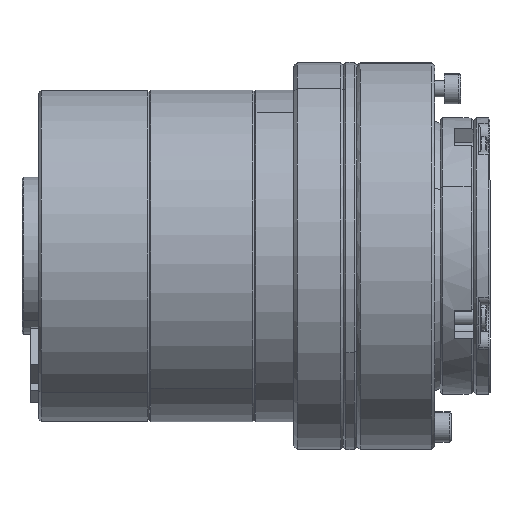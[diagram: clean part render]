
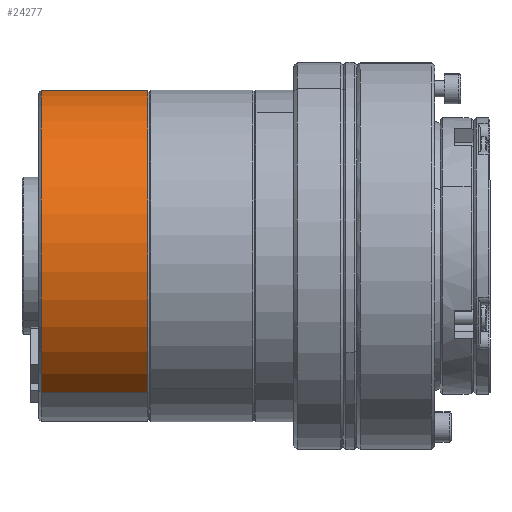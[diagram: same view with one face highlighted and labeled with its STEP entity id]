
A CAD part, top view. The second image highlights one B-rep face of the part: STEP entity #24277.
In plain terms, the highlighted cylindrical face has radius 30 mm (diameter 60 mm), a partial arc.
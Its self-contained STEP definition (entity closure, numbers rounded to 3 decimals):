
#950 = EDGE_CURVE ( 'NONE', #9895, #17690, #17431, .T. ) ;
#1883 = CARTESIAN_POINT ( 'NONE',  ( -70.1, 0., 0. ) ) ;
#2168 = CIRCLE ( 'NONE', #16726, 30. ) ;
#3927 = CARTESIAN_POINT ( 'NONE',  ( -71.1, 24.721, -16.997 ) ) ;
#5256 = EDGE_CURVE ( 'NONE', #24748, #25273, #2168, .T. ) ;
#6031 = DIRECTION ( 'NONE',  ( 1., 0., 0. ) ) ;
#6273 = EDGE_LOOP ( 'NONE', ( #20752, #24023, #8899, #15278 ) ) ;
#6636 = CARTESIAN_POINT ( 'NONE',  ( -70.1, 24.721, -16.997 ) ) ;
#7609 = DIRECTION ( 'NONE',  ( 0., -0.824, 0.567 ) ) ;
#8640 = EDGE_CURVE ( 'NONE', #17690, #24748, #14356, .T. ) ;
#8741 = AXIS2_PLACEMENT_3D ( 'NONE', #1883, #9819, #15827 ) ;
#8899 = ORIENTED_EDGE ( 'NONE', *, *, #8640, .T. ) ;
#9570 = CARTESIAN_POINT ( 'NONE',  ( -51.9, 0., 0. ) ) ;
#9819 = DIRECTION ( 'NONE',  ( -1., 0., 0. ) ) ;
#9895 = VERTEX_POINT ( 'NONE', #19655 ) ;
#9945 = FACE_OUTER_BOUND ( 'NONE', #6273, .T. ) ;
#10112 = CARTESIAN_POINT ( 'NONE',  ( -71.1, 0., 0. ) ) ;
#10407 = CARTESIAN_POINT ( 'NONE',  ( -71.1, -24.721, 16.997 ) ) ;
#11339 = CARTESIAN_POINT ( 'NONE',  ( -70.1, -24.721, 16.997 ) ) ;
#12684 = VECTOR ( 'NONE', #19050, 1000. ) ;
#12769 = EDGE_CURVE ( 'NONE', #9895, #25273, #13285, .T. ) ;
#13075 = DIRECTION ( 'NONE',  ( -1., 0., 0. ) ) ;
#13285 = LINE ( 'NONE', #11339, #12684 ) ;
#14356 = LINE ( 'NONE', #6636, #20107 ) ;
#14482 = DIRECTION ( 'NONE',  ( -1., 0., 0. ) ) ;
#15278 = ORIENTED_EDGE ( 'NONE', *, *, #5256, .T. ) ;
#15827 = DIRECTION ( 'NONE',  ( 0., 0.824, -0.567 ) ) ;
#16726 = AXIS2_PLACEMENT_3D ( 'NONE', #10112, #6031, #21861 ) ;
#17431 = CIRCLE ( 'NONE', #22386, 30. ) ;
#17690 = VERTEX_POINT ( 'NONE', #19522 ) ;
#19050 = DIRECTION ( 'NONE',  ( -1., 0., 0. ) ) ;
#19522 = CARTESIAN_POINT ( 'NONE',  ( -51.9, 24.721, -16.997 ) ) ;
#19655 = CARTESIAN_POINT ( 'NONE',  ( -51.9, -24.721, 16.997 ) ) ;
#20107 = VECTOR ( 'NONE', #14482, 1000. ) ;
#20752 = ORIENTED_EDGE ( 'NONE', *, *, #12769, .F. ) ;
#21822 = CYLINDRICAL_SURFACE ( 'NONE', #8741, 30. ) ;
#21861 = DIRECTION ( 'NONE',  ( 0., -0.824, 0.567 ) ) ;
#22386 = AXIS2_PLACEMENT_3D ( 'NONE', #9570, #13075, #7609 ) ;
#24023 = ORIENTED_EDGE ( 'NONE', *, *, #950, .T. ) ;
#24277 = ADVANCED_FACE ( 'NONE', ( #9945 ), #21822, .T. ) ;
#24748 = VERTEX_POINT ( 'NONE', #3927 ) ;
#25273 = VERTEX_POINT ( 'NONE', #10407 ) ;
